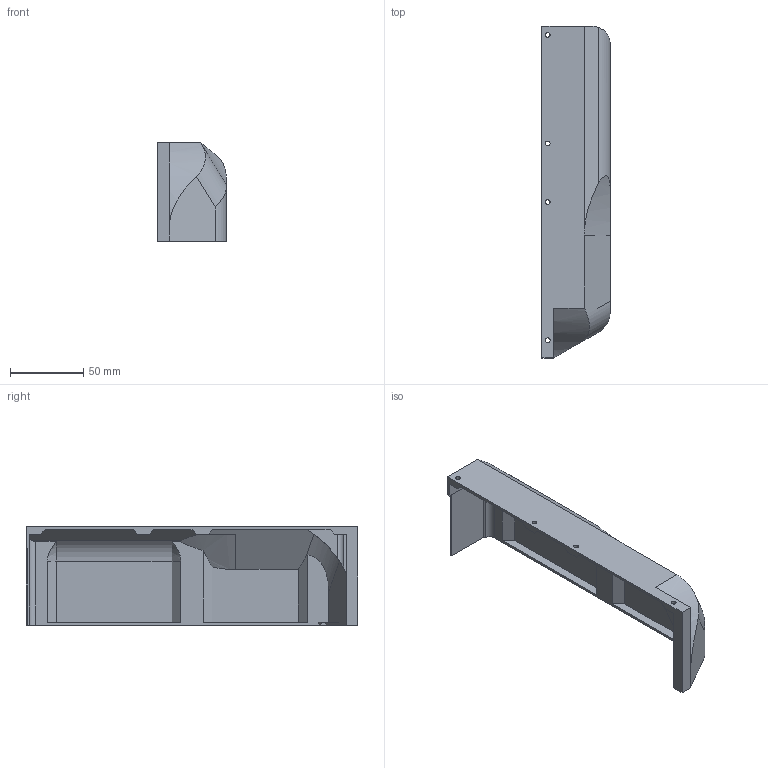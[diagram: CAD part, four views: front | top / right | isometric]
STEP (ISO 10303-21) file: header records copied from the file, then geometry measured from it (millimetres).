
FILE_DESCRIPTION(/* description */ (''),/* implementation_level */ '2;1');
FILE_NAME(/* name */ '1-08-1 Left.step',/* time_stamp */ '2025-05-10T21:33:51+02:00',/* author */ (''),/* organization */ (''),/* preprocessor_version */ 'ST-DEVELOPER v20.1',/* originating_system */ 'Autodesk Translation Framework v14.4.0.0',/* authorisation */ '');
FILE_SCHEMA (('AUTOMOTIVE_DESIGN { 1 0 10303 214 3 1 1 }'));
Length unit declared in the file: millimetre
Products named in the file (1): 1-08-1 Left
Bounding box: 46.5 x 226 x 67 mm (x, y, z)
Volume: 71719.3 mm3; surface area: 57866.2 mm2
Topology: 1 solids, 1 shells, 84 faces, 220 edges, 146 vertices
Faces by surface type: plane 58, cylinder 24, cone 2
Full cylindrical faces by diameter (mm): 3.2 x4, 4.1 x5, 6 x4
Entity records: 2702 total; most frequent: CARTESIAN_POINT 542, ORIENTED_EDGE 440, DIRECTION 430, EDGE_CURVE 220, LINE 158, VECTOR 158, VERTEX_POINT 146, AXIS2_PLACEMENT_3D 136
